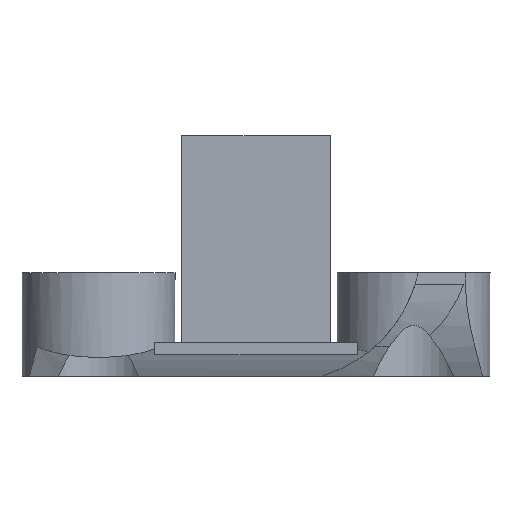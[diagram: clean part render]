
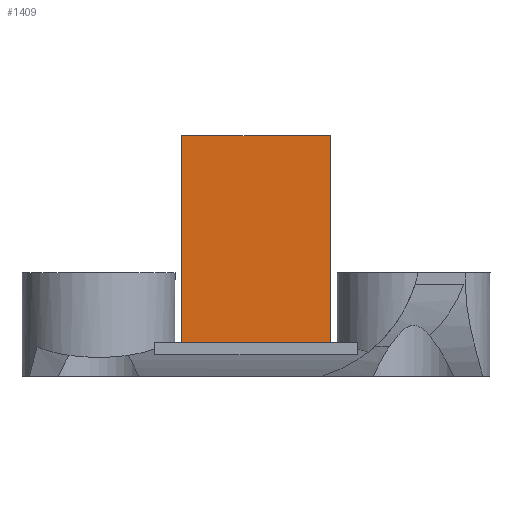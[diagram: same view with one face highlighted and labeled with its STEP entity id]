
A CAD part, left-side view. The second image highlights one B-rep face of the part: STEP entity #1409.
In plain terms, the highlighted planar face has unit normal (-1, 0, 0).
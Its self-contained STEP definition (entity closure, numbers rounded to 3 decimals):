
#126 = PLANE('',#127);
#127 = AXIS2_PLACEMENT_3D('',#128,#129,#130);
#128 = CARTESIAN_POINT('',(-38.05,-12.5,-16.6));
#129 = DIRECTION('',(0.,0.,1.));
#130 = DIRECTION('',(1.,0.,-0.));
#321 = VERTEX_POINT('',#322);
#322 = CARTESIAN_POINT('',(-33.55,-11.3,-16.6));
#336 = PLANE('',#337);
#337 = AXIS2_PLACEMENT_3D('',#338,#339,#340);
#338 = CARTESIAN_POINT('',(-33.55,-11.3,-16.6));
#339 = DIRECTION('',(-0.,1.,0.));
#340 = DIRECTION('',(0.,0.,1.));
#348 = EDGE_CURVE('',#321,#349,#351,.T.);
#349 = VERTEX_POINT('',#350);
#350 = CARTESIAN_POINT('',(-33.55,-4.7,-16.6));
#351 = SURFACE_CURVE('',#352,(#356,#363),.PCURVE_S1.);
#352 = LINE('',#353,#354);
#353 = CARTESIAN_POINT('',(-33.55,-11.9,-16.6));
#354 = VECTOR('',#355,1.);
#355 = DIRECTION('',(-0.,1.,0.));
#356 = PCURVE('',#126,#357);
#357 = DEFINITIONAL_REPRESENTATION('',(#358),#362);
#358 = LINE('',#359,#360);
#359 = CARTESIAN_POINT('',(4.5,0.6));
#360 = VECTOR('',#361,1.);
#361 = DIRECTION('',(0.,1.));
#362 = ( GEOMETRIC_REPRESENTATION_CONTEXT(2) 
PARAMETRIC_REPRESENTATION_CONTEXT() REPRESENTATION_CONTEXT('2D SPACE',''
  ) );
#363 = PCURVE('',#364,#369);
#364 = PLANE('',#365);
#365 = AXIS2_PLACEMENT_3D('',#366,#367,#368);
#366 = CARTESIAN_POINT('',(-33.55,-11.3,-16.6));
#367 = DIRECTION('',(1.,0.,-0.));
#368 = DIRECTION('',(0.,0.,1.));
#369 = DEFINITIONAL_REPRESENTATION('',(#370),#374);
#370 = LINE('',#371,#372);
#371 = CARTESIAN_POINT('',(0.,0.6));
#372 = VECTOR('',#373,1.);
#373 = DIRECTION('',(0.,-1.));
#374 = ( GEOMETRIC_REPRESENTATION_CONTEXT(2) 
PARAMETRIC_REPRESENTATION_CONTEXT() REPRESENTATION_CONTEXT('2D SPACE',''
  ) );
#392 = PLANE('',#393);
#393 = AXIS2_PLACEMENT_3D('',#394,#395,#396);
#394 = CARTESIAN_POINT('',(-33.55,-4.7,-16.6));
#395 = DIRECTION('',(-0.,1.,0.));
#396 = DIRECTION('',(0.,0.,1.));
#1328 = PLANE('',#1329);
#1329 = AXIS2_PLACEMENT_3D('',#1330,#1331,#1332);
#1330 = CARTESIAN_POINT('',(-33.55,-11.3,-7.4));
#1331 = DIRECTION('',(0.,0.,1.));
#1332 = DIRECTION('',(1.,0.,-0.));
#1366 = EDGE_CURVE('',#349,#1367,#1369,.T.);
#1367 = VERTEX_POINT('',#1368);
#1368 = CARTESIAN_POINT('',(-33.55,-4.7,-7.4));
#1369 = SURFACE_CURVE('',#1370,(#1374,#1381),.PCURVE_S1.);
#1370 = LINE('',#1371,#1372);
#1371 = CARTESIAN_POINT('',(-33.55,-4.7,-16.6));
#1372 = VECTOR('',#1373,1.);
#1373 = DIRECTION('',(0.,0.,1.));
#1374 = PCURVE('',#392,#1375);
#1375 = DEFINITIONAL_REPRESENTATION('',(#1376),#1380);
#1376 = LINE('',#1377,#1378);
#1377 = CARTESIAN_POINT('',(0.,0.));
#1378 = VECTOR('',#1379,1.);
#1379 = DIRECTION('',(1.,0.));
#1380 = ( GEOMETRIC_REPRESENTATION_CONTEXT(2) 
PARAMETRIC_REPRESENTATION_CONTEXT() REPRESENTATION_CONTEXT('2D SPACE',''
  ) );
#1381 = PCURVE('',#364,#1382);
#1382 = DEFINITIONAL_REPRESENTATION('',(#1383),#1387);
#1383 = LINE('',#1384,#1385);
#1384 = CARTESIAN_POINT('',(0.,-6.6));
#1385 = VECTOR('',#1386,1.);
#1386 = DIRECTION('',(1.,0.));
#1387 = ( GEOMETRIC_REPRESENTATION_CONTEXT(2) 
PARAMETRIC_REPRESENTATION_CONTEXT() REPRESENTATION_CONTEXT('2D SPACE',''
  ) );
#1409 = ADVANCED_FACE('',(#1410),#364,.F.);
#1410 = FACE_BOUND('',#1411,.F.);
#1411 = EDGE_LOOP('',(#1412,#1435,#1436,#1437));
#1412 = ORIENTED_EDGE('',*,*,#1413,.F.);
#1413 = EDGE_CURVE('',#321,#1414,#1416,.T.);
#1414 = VERTEX_POINT('',#1415);
#1415 = CARTESIAN_POINT('',(-33.55,-11.3,-7.4));
#1416 = SURFACE_CURVE('',#1417,(#1421,#1428),.PCURVE_S1.);
#1417 = LINE('',#1418,#1419);
#1418 = CARTESIAN_POINT('',(-33.55,-11.3,-16.6));
#1419 = VECTOR('',#1420,1.);
#1420 = DIRECTION('',(0.,0.,1.));
#1421 = PCURVE('',#364,#1422);
#1422 = DEFINITIONAL_REPRESENTATION('',(#1423),#1427);
#1423 = LINE('',#1424,#1425);
#1424 = CARTESIAN_POINT('',(0.,0.));
#1425 = VECTOR('',#1426,1.);
#1426 = DIRECTION('',(1.,0.));
#1427 = ( GEOMETRIC_REPRESENTATION_CONTEXT(2) 
PARAMETRIC_REPRESENTATION_CONTEXT() REPRESENTATION_CONTEXT('2D SPACE',''
  ) );
#1428 = PCURVE('',#336,#1429);
#1429 = DEFINITIONAL_REPRESENTATION('',(#1430),#1434);
#1430 = LINE('',#1431,#1432);
#1431 = CARTESIAN_POINT('',(0.,0.));
#1432 = VECTOR('',#1433,1.);
#1433 = DIRECTION('',(1.,0.));
#1434 = ( GEOMETRIC_REPRESENTATION_CONTEXT(2) 
PARAMETRIC_REPRESENTATION_CONTEXT() REPRESENTATION_CONTEXT('2D SPACE',''
  ) );
#1435 = ORIENTED_EDGE('',*,*,#348,.T.);
#1436 = ORIENTED_EDGE('',*,*,#1366,.T.);
#1437 = ORIENTED_EDGE('',*,*,#1438,.F.);
#1438 = EDGE_CURVE('',#1414,#1367,#1439,.T.);
#1439 = SURFACE_CURVE('',#1440,(#1444,#1451),.PCURVE_S1.);
#1440 = LINE('',#1441,#1442);
#1441 = CARTESIAN_POINT('',(-33.55,-11.3,-7.4));
#1442 = VECTOR('',#1443,1.);
#1443 = DIRECTION('',(-0.,1.,0.));
#1444 = PCURVE('',#364,#1445);
#1445 = DEFINITIONAL_REPRESENTATION('',(#1446),#1450);
#1446 = LINE('',#1447,#1448);
#1447 = CARTESIAN_POINT('',(9.2,0.));
#1448 = VECTOR('',#1449,1.);
#1449 = DIRECTION('',(0.,-1.));
#1450 = ( GEOMETRIC_REPRESENTATION_CONTEXT(2) 
PARAMETRIC_REPRESENTATION_CONTEXT() REPRESENTATION_CONTEXT('2D SPACE',''
  ) );
#1451 = PCURVE('',#1328,#1452);
#1452 = DEFINITIONAL_REPRESENTATION('',(#1453),#1457);
#1453 = LINE('',#1454,#1455);
#1454 = CARTESIAN_POINT('',(0.,0.));
#1455 = VECTOR('',#1456,1.);
#1456 = DIRECTION('',(0.,1.));
#1457 = ( GEOMETRIC_REPRESENTATION_CONTEXT(2) 
PARAMETRIC_REPRESENTATION_CONTEXT() REPRESENTATION_CONTEXT('2D SPACE',''
  ) );
